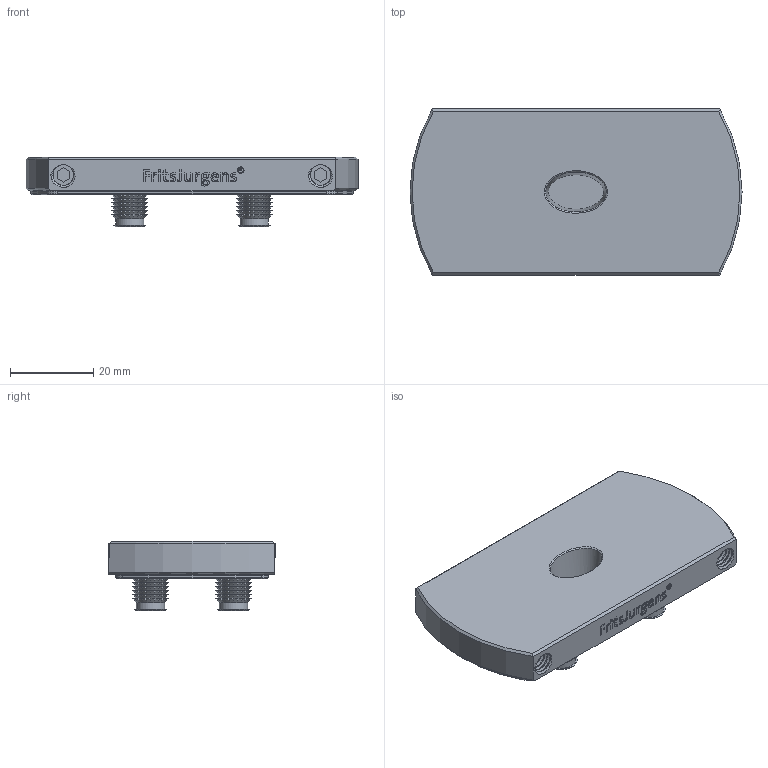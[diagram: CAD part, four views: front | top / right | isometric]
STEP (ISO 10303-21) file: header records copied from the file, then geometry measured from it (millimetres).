
FILE_DESCRIPTION (( 'STEP AP214' ), '1' );
FILE_NAME ('Vloerplaat-RevC-4pin.STEP', '2020-06-24T14:11:52', ( '' ), ( '' ), 'SwSTEP 2.0', 'SolidWorks 2020', '' );
FILE_SCHEMA (( 'AUTOMOTIVE_DESIGN' ));
Length unit declared in the file: millimetre
Products named in the file (1): Vloerplaat-RevC-4pin
Bounding box: 80 x 40 x 16.7 mm (x, y, z)
Volume: 24791.1 mm3; surface area: 16987 mm2
Topology: 1 solids, 1 shells, 1996 faces, 5616 edges, 3718 vertices
Faces by surface type: plane 1534, cylinder 360, cone 84, bspline 18
Full cylindrical faces by diameter (mm): 1.318 x2, 1.572 x2, 5 x10, 6.85 x4, 24 x1, 24.1 x1
Entity records: 83289 total; most frequent: CARTESIAN_POINT 33155, ORIENTED_EDGE 11054, DIRECTION 9664, EDGE_CURVE 5527, VERTEX_POINT 3699, AXIS2_PLACEMENT_3D 3379, LINE 2906, VECTOR 2906
